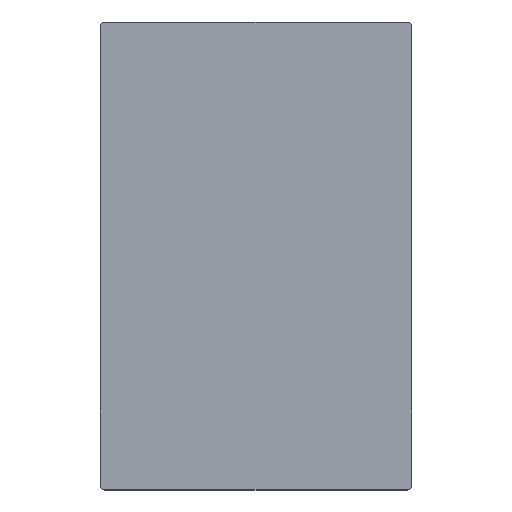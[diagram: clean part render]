
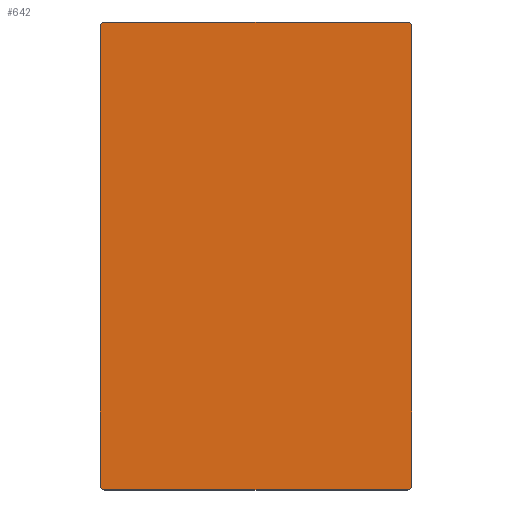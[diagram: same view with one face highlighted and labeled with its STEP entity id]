
A CAD part, top view. The second image highlights one B-rep face of the part: STEP entity #642.
In plain terms, the highlighted planar face has unit normal (0, 0, 1).
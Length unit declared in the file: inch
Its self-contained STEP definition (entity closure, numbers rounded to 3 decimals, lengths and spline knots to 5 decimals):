
#29=PLANE('',#717);
#56=FACE_OUTER_BOUND('',#106,.T.);
#106=EDGE_LOOP('',(#489,#490,#491,#492,#493,#494,#495,#496));
#147=LINE('',#996,#201);
#161=LINE('',#1057,#215);
#163=LINE('',#1060,#217);
#165=LINE('',#1067,#219);
#201=VECTOR('',#783,0.3937);
#215=VECTOR('',#835,0.3937);
#217=VECTOR('',#839,0.3937);
#219=VECTOR('',#847,0.3937);
#251=CIRCLE('',#692,0.125);
#268=CIRCLE('',#712,0.125);
#269=CIRCLE('',#716,0.125);
#270=CIRCLE('',#718,0.125);
#287=VERTEX_POINT('',#983);
#288=VERTEX_POINT('',#984);
#292=VERTEX_POINT('',#994);
#318=VERTEX_POINT('',#1050);
#319=VERTEX_POINT('',#1051);
#320=VERTEX_POINT('',#1056);
#321=VERTEX_POINT('',#1062);
#322=VERTEX_POINT('',#1066);
#347=EDGE_CURVE('',#287,#288,#251,.T.);
#353=EDGE_CURVE('',#287,#292,#147,.F.);
#380=EDGE_CURVE('',#318,#319,#268,.T.);
#383=EDGE_CURVE('',#320,#319,#161,.F.);
#385=EDGE_CURVE('',#318,#288,#163,.F.);
#387=EDGE_CURVE('',#321,#292,#269,.T.);
#388=EDGE_CURVE('',#321,#322,#165,.F.);
#389=EDGE_CURVE('',#320,#322,#270,.T.);
#489=ORIENTED_EDGE('',*,*,#347,.F.);
#490=ORIENTED_EDGE('',*,*,#353,.T.);
#491=ORIENTED_EDGE('',*,*,#387,.F.);
#492=ORIENTED_EDGE('',*,*,#388,.T.);
#493=ORIENTED_EDGE('',*,*,#389,.F.);
#494=ORIENTED_EDGE('',*,*,#383,.T.);
#495=ORIENTED_EDGE('',*,*,#380,.F.);
#496=ORIENTED_EDGE('',*,*,#385,.T.);
#642=ADVANCED_FACE('',(#56),#29,.F.);
#692=AXIS2_PLACEMENT_3D('',#985,#773,#774);
#712=AXIS2_PLACEMENT_3D('',#1052,#829,#830);
#716=AXIS2_PLACEMENT_3D('',#1064,#843,#844);
#717=AXIS2_PLACEMENT_3D('',#1065,#845,#846);
#718=AXIS2_PLACEMENT_3D('',#1068,#848,#849);
#773=DIRECTION('center_axis',(0.,0.,-1.));
#774=DIRECTION('ref_axis',(-0.707,-0.707,0.));
#783=DIRECTION('',(-1.,0.,0.));
#829=DIRECTION('center_axis',(0.,0.,-1.));
#830=DIRECTION('ref_axis',(-0.707,0.707,0.));
#835=DIRECTION('',(1.,0.,0.));
#839=DIRECTION('',(0.,1.,0.));
#843=DIRECTION('center_axis',(0.,0.,-1.));
#844=DIRECTION('ref_axis',(0.707,-0.707,0.));
#845=DIRECTION('center_axis',(0.,0.,-1.));
#846=DIRECTION('ref_axis',(0.,1.,0.));
#847=DIRECTION('',(0.,-1.,0.));
#848=DIRECTION('center_axis',(0.,0.,-1.));
#849=DIRECTION('ref_axis',(0.707,0.707,0.));
#983=CARTESIAN_POINT('',(0.125,0.,1.5));
#984=CARTESIAN_POINT('',(0.,0.125,1.5));
#985=CARTESIAN_POINT('Origin',(0.125,0.125,1.5));
#994=CARTESIAN_POINT('',(7.875,0.,1.5));
#996=CARTESIAN_POINT('',(0.,0.,1.5));
#1050=CARTESIAN_POINT('',(0.,11.875,1.5));
#1051=CARTESIAN_POINT('',(0.125,12.,1.5));
#1052=CARTESIAN_POINT('Origin',(0.125,11.875,1.5));
#1056=CARTESIAN_POINT('',(7.875,12.,1.5));
#1057=CARTESIAN_POINT('',(0.,12.,1.5));
#1060=CARTESIAN_POINT('',(0.,6.,1.5));
#1062=CARTESIAN_POINT('',(8.,0.125,1.5));
#1064=CARTESIAN_POINT('Origin',(7.875,0.125,1.5));
#1065=CARTESIAN_POINT('Origin',(0.,12.,1.5));
#1066=CARTESIAN_POINT('',(8.,11.875,1.5));
#1067=CARTESIAN_POINT('',(8.,6.,1.5));
#1068=CARTESIAN_POINT('Origin',(7.875,11.875,1.5));
